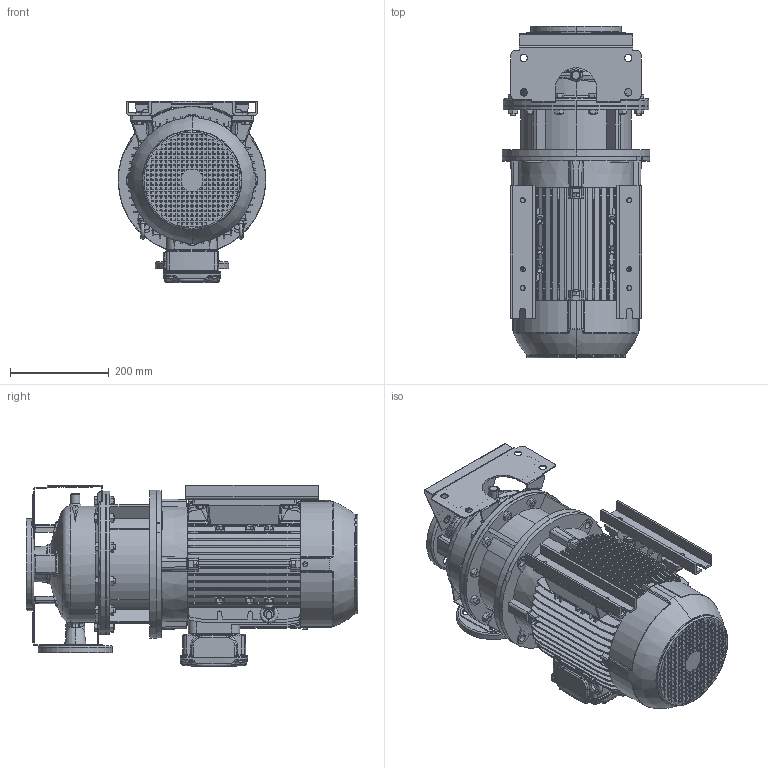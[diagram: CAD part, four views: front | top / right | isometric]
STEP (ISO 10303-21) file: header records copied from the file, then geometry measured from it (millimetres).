
FILE_DESCRIPTION (( 'STEP AP214' ), '1' );
FILE_NAME ('3LS 40-200_5.5 & 7.5_(132S)_W21.STEP', '2026-04-29T02:50:20', ( '' ), ( '' ), 'SwSTEP 2.0', 'SolidWorks 2024', '' );
FILE_SCHEMA (( 'AUTOMOTIVE_DESIGN' ));
Length unit declared in the file: inch
Products named in the file (4): 132M ALIE3_W21T_B35; 3LS 40-200_5.5 & 7.5_(132S)_W21; 40-200_5_5_ie2_STEP; Bolt & Washer M10 x 20.STEP
Assembly tree (6 placements, depth 2):
  3LS 40-200_5.5 & 7.5_(132S)_W21
    40-200_5_5_ie2_STEP
    132M ALIE3_W21T_B35
    Bolt & Washer M10 x 20.STEP  x4
Bounding box: 300 x 673.8 x 368 mm (x, y, z)
Volume: 27174204.5 mm3; surface area: 2192963.6 mm2
Topology: 18 solids, 18 shells, 4343 faces, 11330 edges, 7370 vertices
Faces by surface type: plane 2840, cylinder 928, torus 218, bspline 174, cone 151, sphere 32
Entity records: 148285 total; most frequent: CARTESIAN_POINT 44695, ORIENTED_EDGE 22212, DIRECTION 20265, EDGE_CURVE 11106, LINE 7853, VECTOR 7853, VERTEX_POINT 7244, AXIS2_PLACEMENT_3D 6206
